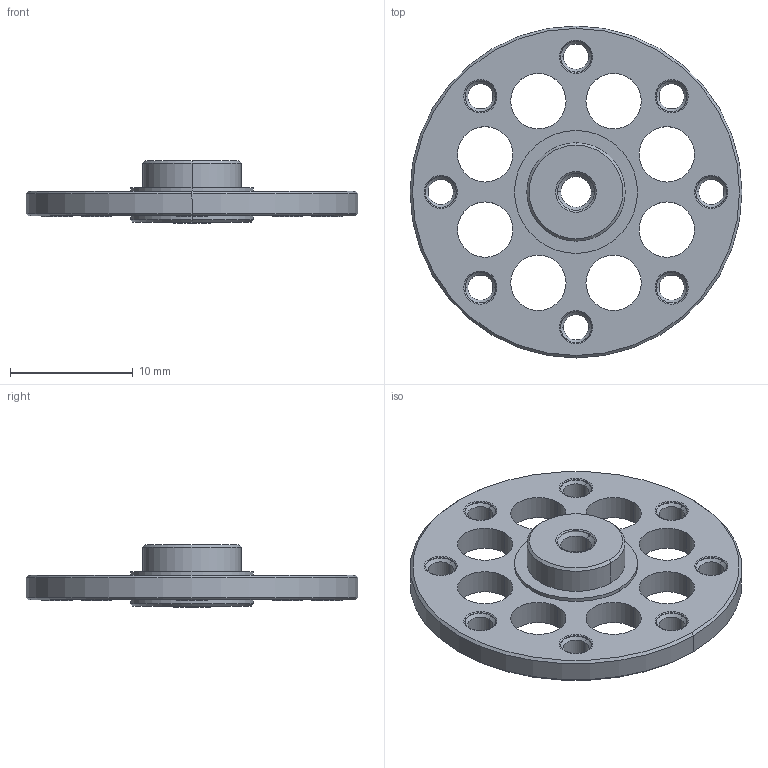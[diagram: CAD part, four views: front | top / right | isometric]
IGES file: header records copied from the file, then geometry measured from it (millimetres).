
Start section:  PTC IGES file: fr05_f101.igs
Global section: file name: fr05_f101.igs; native system: Pro/ENGINEER by Parametric Technology Corporation; preprocessor: 2009060; author: JANG WOOK; organization: Unknown; date: 20100202.170324; units: millimetre
Bounding box: 27 x 27 x 5.1 mm (x, y, z)
Surface area: 2038.4 mm2 (no closed solid volume)
Topology: 0 solids, 0 shells, 109 faces, 886 edges, 1064 vertices
Faces by surface type: revolution 104, bspline 5
